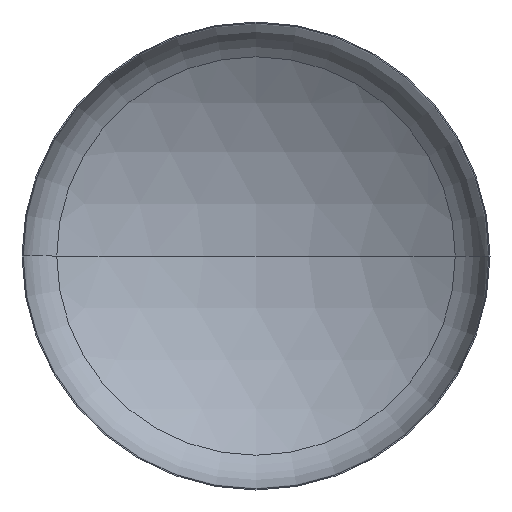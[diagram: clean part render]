
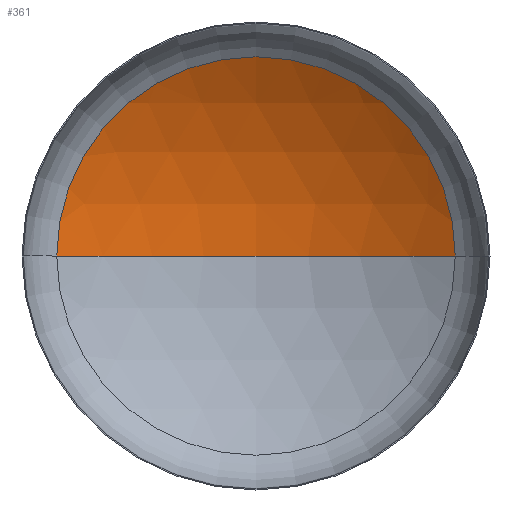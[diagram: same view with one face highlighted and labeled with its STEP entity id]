
A CAD part, front view. The second image highlights one B-rep face of the part: STEP entity #361.
In plain terms, the highlighted spherical face has radius 4000 mm.
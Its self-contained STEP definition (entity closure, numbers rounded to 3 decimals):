
#4 = VERTEX_POINT ( 'NONE', #249 ) ;
#11 = ORIENTED_EDGE ( 'NONE', *, *, #195, .F. ) ;
#15 = AXIS2_PLACEMENT_3D ( 'NONE', #225, #319, #90 ) ;
#17 = EDGE_LOOP ( 'NONE', ( #11, #354, #87 ) ) ;
#24 = VERTEX_POINT ( 'NONE', #277 ) ;
#75 = AXIS2_PLACEMENT_3D ( 'NONE', #239, #172, #171 ) ;
#87 = ORIENTED_EDGE ( 'NONE', *, *, #176, .T. ) ;
#89 = AXIS2_PLACEMENT_3D ( 'NONE', #200, #202, #217 ) ;
#90 = DIRECTION ( 'NONE',  ( -1., 0., 0. ) ) ;
#91 = AXIS2_PLACEMENT_3D ( 'NONE', #256, #252, #251 ) ;
#106 = CIRCLE ( 'NONE', #89, 2128.793 ) ;
#131 = CIRCLE ( 'NONE', #75, 4000. ) ;
#166 = FACE_OUTER_BOUND ( 'NONE', #17, .T. ) ;
#171 = DIRECTION ( 'NONE',  ( 1., 0., 0. ) ) ;
#172 = DIRECTION ( 'NONE',  ( 0., 0., 1. ) ) ;
#175 = VERTEX_POINT ( 'NONE', #269 ) ;
#176 = EDGE_CURVE ( 'NONE', #24, #175, #106, .T. ) ;
#183 = EDGE_CURVE ( 'NONE', #4, #24, #330, .T. ) ;
#195 = EDGE_CURVE ( 'NONE', #4, #175, #131, .T. ) ;
#200 = CARTESIAN_POINT ( 'NONE',  ( 0., 691.897, 0. ) ) ;
#202 = DIRECTION ( 'NONE',  ( 0., -1., 0. ) ) ;
#217 = DIRECTION ( 'NONE',  ( 1., 0., 0. ) ) ;
#225 = CARTESIAN_POINT ( 'NONE',  ( 0., -2694.582, 0. ) ) ;
#238 = SPHERICAL_SURFACE ( 'NONE', #15, 4000. ) ;
#239 = CARTESIAN_POINT ( 'NONE',  ( 0., -2694.582, 0. ) ) ;
#249 = CARTESIAN_POINT ( 'NONE',  ( 0., 1305.418, 0. ) ) ;
#251 = DIRECTION ( 'NONE',  ( -1., 0., 0. ) ) ;
#252 = DIRECTION ( 'NONE',  ( 0., 0., -1. ) ) ;
#256 = CARTESIAN_POINT ( 'NONE',  ( 0., -2694.582, 0. ) ) ;
#269 = CARTESIAN_POINT ( 'NONE',  ( -2128.793, 691.897, 0. ) ) ;
#277 = CARTESIAN_POINT ( 'NONE',  ( 2128.793, 691.897, 0. ) ) ;
#319 = DIRECTION ( 'NONE',  ( 0., 0., -1. ) ) ;
#330 = CIRCLE ( 'NONE', #91, 4000. ) ;
#354 = ORIENTED_EDGE ( 'NONE', *, *, #183, .T. ) ;
#361 = ADVANCED_FACE ( 'NONE', ( #166 ), #238, .F. ) ;
